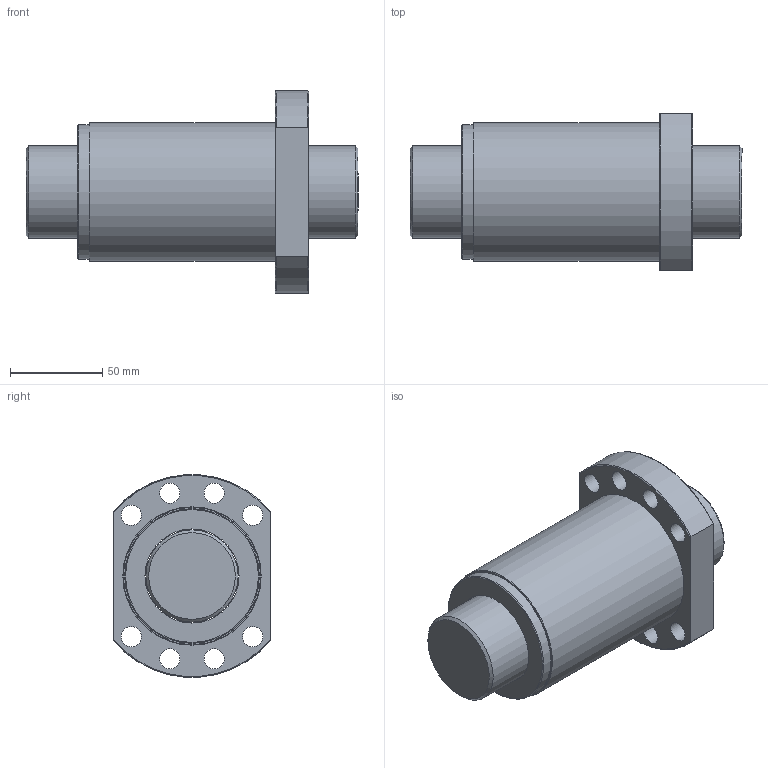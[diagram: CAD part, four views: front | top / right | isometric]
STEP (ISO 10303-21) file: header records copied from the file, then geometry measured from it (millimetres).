
FILE_DESCRIPTION(/* description */ (''),/* implementation_level */ '2;1');
FILE_NAME(/* name */ 'SFS5050-1.8',/* time_stamp */ '2007-10-26T13:02:35+08:00',/* author */ (''),/* organization */ (''),/* preprocessor_version */ 'ST-DEVELOPER v9',/* originating_system */ 'UGS - NX 3.0',/* authorisation */ '');
FILE_SCHEMA (('CONFIG_CONTROL_DESIGN'));
Length unit declared in the file: millimetre
Products named in the file (1): jaso15A4i30z
Bounding box: 180 x 85 x 109.65 mm (x, y, z)
Volume: 703503 mm3; surface area: 110269.1 mm2
Topology: 4 solids, 4 shells, 39 faces, 90 edges, 61 vertices
Faces by surface type: cylinder 18, plane 12, torus 7, cone 2
Full cylindrical faces by diameter (mm): 11 x8, 50 x1, 51 x3, 73 x2, 75 x2
Entity records: 1208 total; most frequent: CARTESIAN_POINT 298, DIRECTION 178, ORIENTED_EDGE 122, AXIS2_PLACEMENT_3D 85, EDGE_LOOP 84, FACE_BOUND 64, EDGE_CURVE 61, VERTEX_POINT 53
